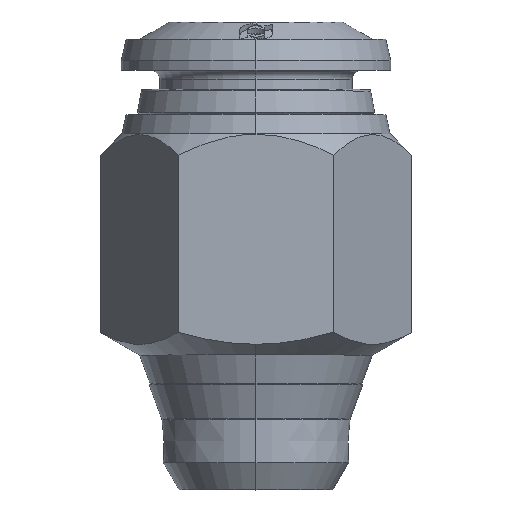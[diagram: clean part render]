
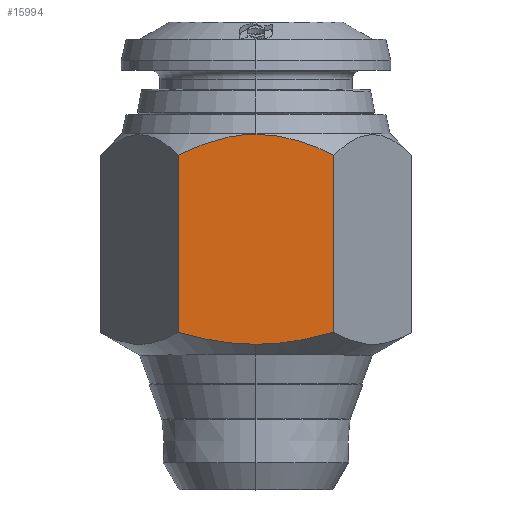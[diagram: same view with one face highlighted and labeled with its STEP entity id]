
A CAD part, top view. The second image highlights one B-rep face of the part: STEP entity #15994.
In plain terms, the highlighted planar face has unit normal (0, 0, 1).
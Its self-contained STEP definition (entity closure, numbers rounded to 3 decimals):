
#342 = ORIENTED_EDGE ( 'NONE', *, *, #5477, .T. ) ;
#343 = ORIENTED_EDGE ( 'NONE', *, *, #13055, .F. ) ;
#344 = ORIENTED_EDGE ( 'NONE', *, *, #5478, .F. ) ;
#345 = ORIENTED_EDGE ( 'NONE', *, *, #5479, .F. ) ;
#346 = ORIENTED_EDGE ( 'NONE', *, *, #13080, .F. ) ;
#347 = ORIENTED_EDGE ( 'NONE', *, *, #13075, .F. ) ;
#2485 = CARTESIAN_POINT ( 'NONE',  ( -4.041, 8.176, 7. ) ) ;
#2505 = CARTESIAN_POINT ( 'NONE',  ( 4.041, 8.176, 7. ) ) ;
#2506 = CARTESIAN_POINT ( 'NONE',  ( 0., 7.551, 7. ) ) ;
#2508 = CARTESIAN_POINT ( 'NONE',  ( -4.041, 17.38, 7. ) ) ;
#2509 = CARTESIAN_POINT ( 'NONE',  ( 0., 18.463, 7. ) ) ;
#2518 = CARTESIAN_POINT ( 'NONE',  ( 4.041, 17.38, 7. ) ) ;
#5068 = B_SPLINE_CURVE_WITH_KNOTS ( 'NONE', 3,
 ( #10293, #10296, #10312, #10314, #10316, #10318, #10320, #10322 ),
 .UNSPECIFIED., .F., .F.,
 ( 4, 2, 2, 4 ),
 ( 0.012, 0.014, 0.015, 0.016 ),
 .UNSPECIFIED. ) ;
#5075 = B_SPLINE_CURVE_WITH_KNOTS ( 'NONE', 3,
 ( #10506, #10504, #10531, #10533, #10535, #10537 ),
 .UNSPECIFIED., .F., .F.,
 ( 4, 2, 4 ),
 ( 0.021, 0.023, 0.025 ),
 .UNSPECIFIED. ) ;
#5076 = B_SPLINE_CURVE_WITH_KNOTS ( 'NONE', 3,
 ( #10562, #10564, #10573, #10575, #10577, #10579 ),
 .UNSPECIFIED., .F., .F.,
 ( 4, 2, 4 ),
 ( 0.025, 0.027, 0.029 ),
 .UNSPECIFIED. ) ;
#5477 = EDGE_CURVE ( 'NONE', #6896, #6909, #9852, .T. ) ;
#5478 = EDGE_CURVE ( 'NONE', #6899, #6900, #13978, .T. ) ;
#5479 = EDGE_CURVE ( 'NONE', #6876, #6899, #9858, .T. ) ;
#5938 = CARTESIAN_POINT ( 'NONE',  ( 4.041, 0., 7. ) ) ;
#5943 = CARTESIAN_POINT ( 'NONE',  ( -2.755, 17.968, 7. ) ) ;
#5944 = DIRECTION ( 'NONE',  ( 0., 1., 0. ) ) ;
#5945 = CARTESIAN_POINT ( 'NONE',  ( -3.414, 17.693, 7. ) ) ;
#5946 = CARTESIAN_POINT ( 'NONE',  ( -4.041, 0., 7. ) ) ;
#5947 = CARTESIAN_POINT ( 'NONE',  ( -4.041, 17.38, 7. ) ) ;
#5948 = CARTESIAN_POINT ( 'NONE',  ( -1.745, 18.255, 7. ) ) ;
#5949 = CARTESIAN_POINT ( 'NONE',  ( -1.233, 18.369, 7. ) ) ;
#5950 = CARTESIAN_POINT ( 'NONE',  ( -0.709, 18.429, 7. ) ) ;
#5951 = CARTESIAN_POINT ( 'NONE',  ( -0.356, 18.456, 7. ) ) ;
#5952 = CARTESIAN_POINT ( 'NONE',  ( -0.177, 18.463, 7. ) ) ;
#5953 = CARTESIAN_POINT ( 'NONE',  ( 0., 18.463, 7. ) ) ;
#5954 = DIRECTION ( 'NONE',  ( 0., 1., 0. ) ) ;
#6344 = FACE_OUTER_BOUND ( 'NONE', #6941, .T. ) ;
#6876 = VERTEX_POINT ( 'NONE', #2485 ) ;
#6896 = VERTEX_POINT ( 'NONE', #2505 ) ;
#6897 = VERTEX_POINT ( 'NONE', #2506 ) ;
#6899 = VERTEX_POINT ( 'NONE', #2508 ) ;
#6900 = VERTEX_POINT ( 'NONE', #2509 ) ;
#6909 = VERTEX_POINT ( 'NONE', #2518 ) ;
#6941 = EDGE_LOOP ( 'NONE', ( #342, #343, #344, #345, #346, #347 ) ) ;
#8547 = PLANE ( 'NONE',  #14687 ) ;
#8566 = CARTESIAN_POINT ( 'NONE',  ( -4.041, 0., 7. ) ) ;
#8567 = DIRECTION ( 'NONE',  ( 0., 0., 1. ) ) ;
#8568 = DIRECTION ( 'NONE',  ( 1., 0., 0. ) ) ;
#9852 = LINE ( 'NONE', #5938, #9861 ) ;
#9858 = LINE ( 'NONE', #5946, #9862 ) ;
#9861 = VECTOR ( 'NONE', #5944, 1000. ) ;
#9862 = VECTOR ( 'NONE', #5954, 1000. ) ;
#10293 = CARTESIAN_POINT ( 'NONE',  ( 0., 18.463, 7. ) ) ;
#10296 = CARTESIAN_POINT ( 'NONE',  ( 0.709, 18.463, 7. ) ) ;
#10312 = CARTESIAN_POINT ( 'NONE',  ( 1.401, 18.353, 7. ) ) ;
#10314 = CARTESIAN_POINT ( 'NONE',  ( 2.418, 18.064, 7. ) ) ;
#10316 = CARTESIAN_POINT ( 'NONE',  ( 2.755, 17.946, 7. ) ) ;
#10318 = CARTESIAN_POINT ( 'NONE',  ( 3.409, 17.682, 7. ) ) ;
#10320 = CARTESIAN_POINT ( 'NONE',  ( 3.728, 17.536, 7. ) ) ;
#10322 = CARTESIAN_POINT ( 'NONE',  ( 4.041, 17.38, 7. ) ) ;
#10504 = CARTESIAN_POINT ( 'NONE',  ( 3.388, 7.987, 7. ) ) ;
#10506 = CARTESIAN_POINT ( 'NONE',  ( 4.041, 8.176, 7. ) ) ;
#10531 = CARTESIAN_POINT ( 'NONE',  ( 2.726, 7.83, 7. ) ) ;
#10533 = CARTESIAN_POINT ( 'NONE',  ( 1.376, 7.611, 7. ) ) ;
#10535 = CARTESIAN_POINT ( 'NONE',  ( 0.683, 7.551, 7. ) ) ;
#10537 = CARTESIAN_POINT ( 'NONE',  ( 0., 7.551, 7. ) ) ;
#10562 = CARTESIAN_POINT ( 'NONE',  ( 0., 7.551, 7. ) ) ;
#10564 = CARTESIAN_POINT ( 'NONE',  ( -0.683, 7.551, 7. ) ) ;
#10573 = CARTESIAN_POINT ( 'NONE',  ( -1.361, 7.61, 7. ) ) ;
#10575 = CARTESIAN_POINT ( 'NONE',  ( -2.711, 7.827, 7. ) ) ;
#10577 = CARTESIAN_POINT ( 'NONE',  ( -3.384, 7.986, 7. ) ) ;
#10579 = CARTESIAN_POINT ( 'NONE',  ( -4.041, 8.176, 7. ) ) ;
#13055 = EDGE_CURVE ( 'NONE', #6900, #6909, #5068, .T. ) ;
#13075 = EDGE_CURVE ( 'NONE', #6896, #6897, #5075, .T. ) ;
#13080 = EDGE_CURVE ( 'NONE', #6897, #6876, #5076, .T. ) ;
#13978 = B_SPLINE_CURVE_WITH_KNOTS ( 'NONE', 3,
 ( #5947, #5945, #5943, #5948, #5949, #5950, #5951, #5952, #5953 ),
 .UNSPECIFIED., .F., .F.,
 ( 4, 2, 1, 2, 4 ),
 ( 0.008, 0.01, 0.011, 0.011, 0.012 ),
 .UNSPECIFIED. ) ;
#14687 = AXIS2_PLACEMENT_3D ( 'NONE', #8566, #8567, #8568 ) ;
#15994 = ADVANCED_FACE ( 'NONE', ( #6344 ), #8547, .T. ) ;
